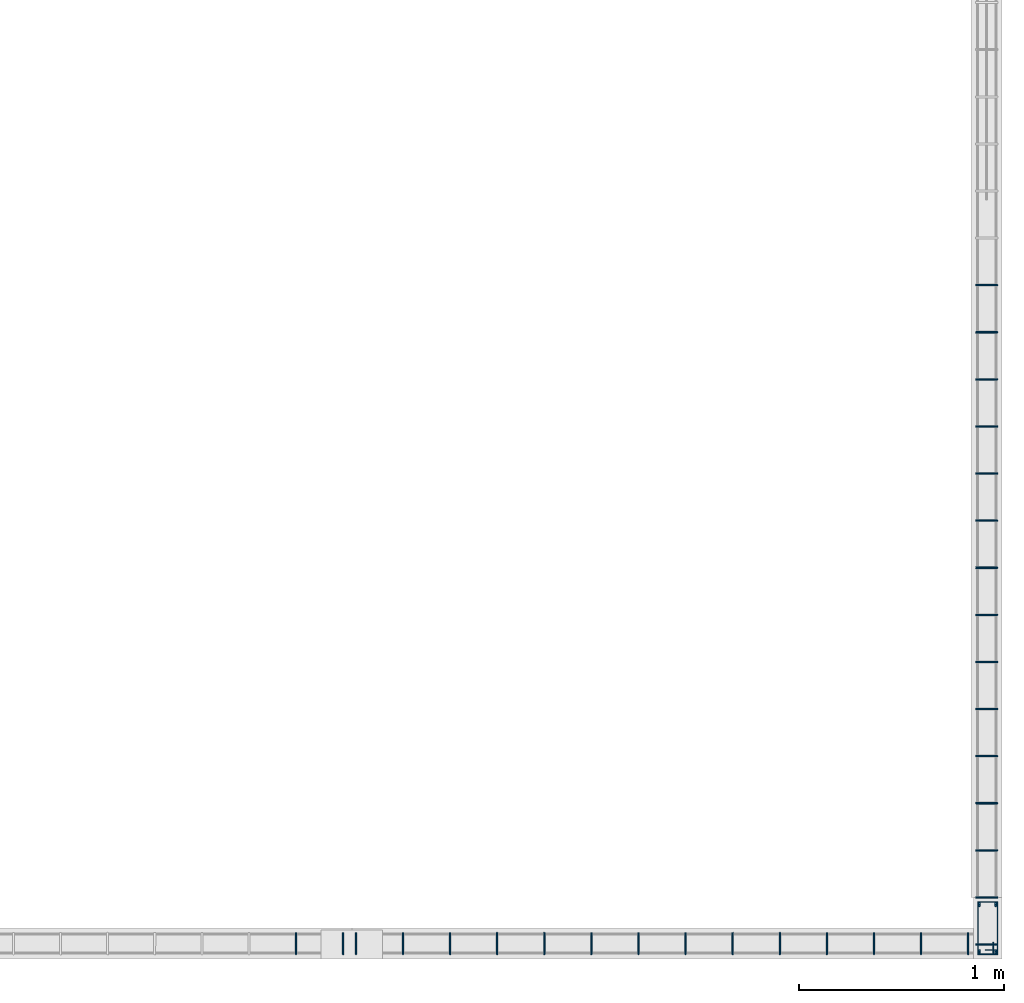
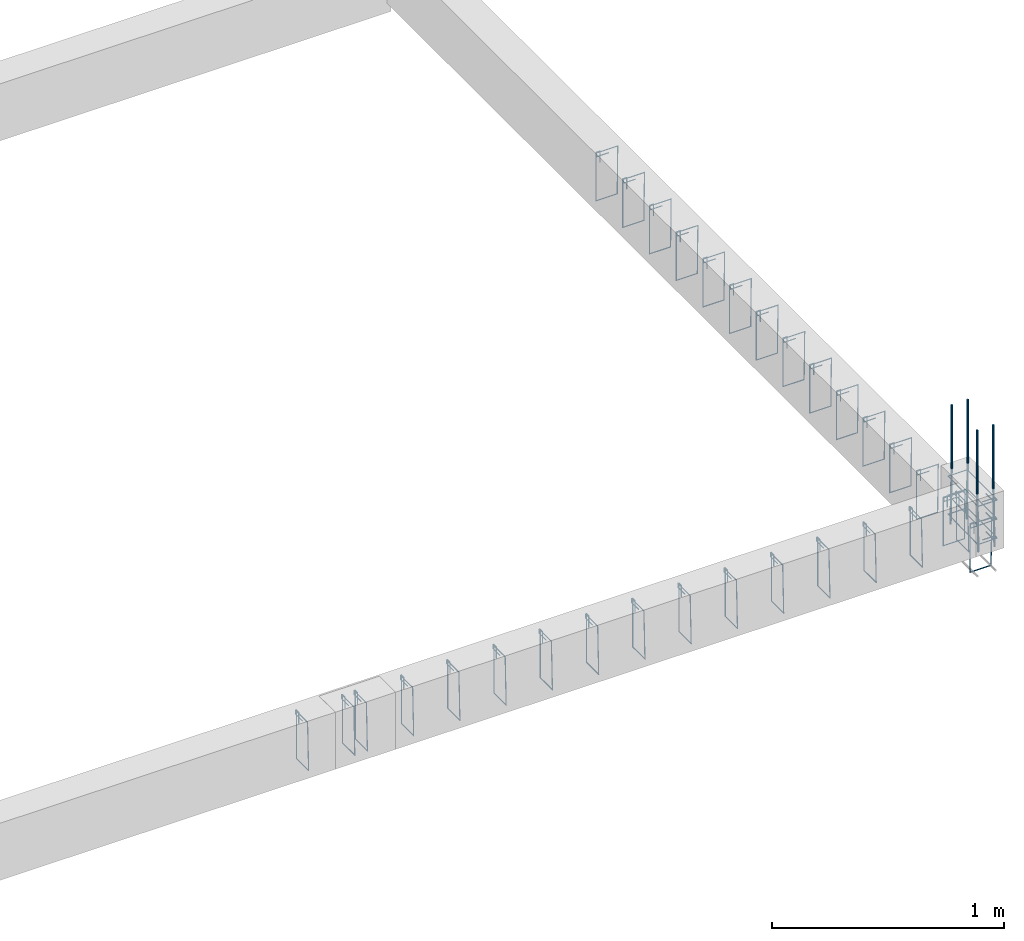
# One storey, part 90 of 150: 38 reinforcing bars.
"""IFC4 building model written with IfcOpenShell, lengths in centimetres."""

from ifc_helpers import new_model, entity, si_unit, derived_unit, frame, origin_with_axes, place, context, project, spatial, source, transform, mapped, element, save


model = new_model("IFC4")

# Units and contexts
model_context = context("Model", 3, precision=1e-05, world=origin_with_axes(), identifier="Body")
ifc_project = project(units=[si_unit("LENGTHUNIT", "METRE", prefix="CENTI"), si_unit("VOLUMEUNIT", "CUBIC_METRE"), si_unit("AREAUNIT", "SQUARE_METRE"), si_unit("POWERUNIT", "WATT"), si_unit("LUMINOUSFLUXUNIT", "LUMEN"), si_unit("ELECTRICCURRENTUNIT", "AMPERE"), si_unit("PRESSUREUNIT", "PASCAL", prefix="KILO"), si_unit("MASSUNIT", "GRAM", prefix="KILO"), si_unit("PLANEANGLEUNIT", "RADIAN"), derived_unit("VOLUMETRICFLOWRATEUNIT", [(si_unit("LENGTHUNIT", "METRE"), 3), (si_unit("TIMEUNIT", "SECOND"), -1)])], contexts=[model_context])

# Site, building, storey
site_placement = place(None, frame((-4000.0, 0.0, 0.0), z_axis=(0.0, 0.0, 1.0), x_axis=(1.0, 0.0, 0.0)))
site = spatial("IfcSite", under=ifc_project, at=site_placement, Name="PADRÃO")
building_placement = place(site_placement, frame((0.0, 0.0, -14.0)))
building = spatial("IfcBuilding", under=site, at=building_placement, Name="CRECHE PRÉ-ESCOLA TIPO 2")
placement = place(building_placement, origin_with_axes())
storey_placement = place(placement, frame((0.0, 0.0, 30.0), z_axis=(0.0, 0.0, 1.0), x_axis=(1.0, 0.0, 0.0)))
storey = spatial("IfcBuildingStorey", under=building, at=storey_placement, Name="VIGA BALDRAME", CompositionType="ELEMENT", Elevation=16.0)

# Reinforcing bars
shared_shape_1 = source(origin_with_axes(), model_context, "Body", "AdvancedSweptSolid", [
    entity("IfcSweptDiskSolid", entity("IfcCompositeCurve", [entity("IfcCompositeCurveSegment", "CONTINUOUS", True, entity("IfcPolyline", [entity("IfcCartesianPoint", [4.25, 21.75, 0.0]), entity("IfcCartesianPoint", [4.25, 27.75, 0.0])])), entity("IfcCompositeCurveSegment", "CONTINUOUS", True, entity("IfcPolyline", [entity("IfcCartesianPoint", [4.25, 27.75, 0.0]), entity("IfcCartesianPoint", [2.25, 27.75, 0.0])])), entity("IfcCompositeCurveSegment", "CONTINUOUS", True, entity("IfcPolyline", [entity("IfcCartesianPoint", [2.25, 27.75, 0.0]), entity("IfcCartesianPoint", [2.25, 2.25, 0.0])])), entity("IfcCompositeCurveSegment", "CONTINUOUS", True, entity("IfcPolyline", [entity("IfcCartesianPoint", [2.25, 2.25, 0.0]), entity("IfcCartesianPoint", [11.75, 2.25, 0.0])])), entity("IfcCompositeCurveSegment", "CONTINUOUS", True, entity("IfcPolyline", [entity("IfcCartesianPoint", [11.75, 2.25, 0.0]), entity("IfcCartesianPoint", [11.75, 27.75, -0.5])])), entity("IfcCompositeCurveSegment", "CONTINUOUS", True, entity("IfcPolyline", [entity("IfcCartesianPoint", [11.75, 27.75, -0.5]), entity("IfcCartesianPoint", [2.25, 27.75, -0.5])])), entity("IfcCompositeCurveSegment", "CONTINUOUS", True, entity("IfcPolyline", [entity("IfcCartesianPoint", [2.25, 27.75, -0.5]), entity("IfcCartesianPoint", [2.25, 25.75, -0.5])])), entity("IfcCompositeCurveSegment", "CONTINUOUS", True, entity("IfcPolyline", [entity("IfcCartesianPoint", [2.25, 25.75, -0.5]), entity("IfcCartesianPoint", [8.25, 25.75, -0.5])]))], False), 0.25),
])
for number, where, z_axis, x_axis, name in (
    (1, (3999.0, 32.0, -5.0), (0.0, 0.0, 1.0), (-1.0, 0.0, 0.0), "P168 - Estribo"),
    (2, (3999.0, 32.0, -15.0), (0.0, 0.0, 1.0), (-1.0, 0.0, 0.0), "P168 - Estribo"),
    (3, (3999.0, 32.0, -25.0), (0.0, 0.0, 1.0), (-1.0, 0.0, 0.0), "P168 - Estribo"),
):
    element("IfcReinforcingBar", number, at=place(storey_placement, frame(where, z_axis=z_axis, x_axis=x_axis)), inside=storey, Name=name, BarLength=0.0, CrossSectionArea=1.9634954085e-05, NominalDiameter=0.5, PredefinedType="MAIN", context=model_context, shape_type="MappedRepresentation", body=[
        mapped(shared_shape_1, transform((0.0, 0.0, 0.0), scale=1.0)),
    ])
shared_shape_2 = source(origin_with_axes(), model_context, "Body", "AdvancedSweptSolid", [
    entity("IfcSweptDiskSolid", entity("IfcCompositeCurve", [entity("IfcCompositeCurveSegment", "CONTINUOUS", True, entity("IfcPolyline", [entity("IfcCartesianPoint", [2.0, -6.0, 0.0]), entity("IfcCartesianPoint", [2.0, 0.0, 0.0])])), entity("IfcCompositeCurveSegment", "CONTINUOUS", True, entity("IfcPolyline", [entity("IfcCartesianPoint", [2.0, 0.0, 0.0]), entity("IfcCartesianPoint", [0.0, 0.0, 0.0])])), entity("IfcCompositeCurveSegment", "CONTINUOUS", True, entity("IfcPolyline", [entity("IfcCartesianPoint", [0.0, 0.0, 0.0]), entity("IfcCartesianPoint", [0.0, -25.5, 0.0])])), entity("IfcCompositeCurveSegment", "CONTINUOUS", True, entity("IfcPolyline", [entity("IfcCartesianPoint", [0.0, -25.5, 0.0]), entity("IfcCartesianPoint", [10.5, -25.5, 0.0])])), entity("IfcCompositeCurveSegment", "CONTINUOUS", True, entity("IfcPolyline", [entity("IfcCartesianPoint", [10.5, -25.5, 0.0]), entity("IfcCartesianPoint", [10.5, 0.0, 0.5])])), entity("IfcCompositeCurveSegment", "CONTINUOUS", True, entity("IfcPolyline", [entity("IfcCartesianPoint", [10.5, 0.0, 0.5]), entity("IfcCartesianPoint", [0.0, 0.0, 0.5])])), entity("IfcCompositeCurveSegment", "CONTINUOUS", True, entity("IfcPolyline", [entity("IfcCartesianPoint", [0.0, 0.0, 0.5]), entity("IfcCartesianPoint", [0.0, -2.0, 0.5])])), entity("IfcCompositeCurveSegment", "CONTINUOUS", True, entity("IfcPolyline", [entity("IfcCartesianPoint", [0.0, -2.0, 0.5]), entity("IfcCartesianPoint", [6.0, -2.0, 0.5])]))], False), 0.25),
])
for number, where, z_axis, x_axis, name in (
    (4, (3654.5, 14.75, -2.25), (-1.0, 0.0, 0.0), (0.0, -1.0, 0.0), "V158 - Estribo"),
    (5, (3677.5, 14.75, -2.25), (-1.0, 0.0, 0.0), (0.0, -1.0, 0.0), "V158 - Estribo"),
):
    element("IfcReinforcingBar", number, at=place(storey_placement, frame(where, z_axis=z_axis, x_axis=x_axis)), inside=storey, Name=name, BarLength=0.0, CrossSectionArea=1.9634954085e-05, NominalDiameter=0.5, PredefinedType="MAIN", context=model_context, shape_type="MappedRepresentation", body=[
        mapped(shared_shape_2, transform((0.0, 0.0, 0.0), scale=1.0)),
    ])
shared_shape_3 = source(origin_with_axes(), model_context, "Body", "AdvancedSweptSolid", [
    entity("IfcSweptDiskSolid", entity("IfcCompositeCurve", [entity("IfcCompositeCurveSegment", "CONTINUOUS", True, entity("IfcPolyline", [entity("IfcCartesianPoint", [2.0, -6.0, 0.0]), entity("IfcCartesianPoint", [2.0, 0.0, 0.0])])), entity("IfcCompositeCurveSegment", "CONTINUOUS", True, entity("IfcPolyline", [entity("IfcCartesianPoint", [2.0, 0.0, 0.0]), entity("IfcCartesianPoint", [0.0, 0.0, 0.0])])), entity("IfcCompositeCurveSegment", "CONTINUOUS", True, entity("IfcPolyline", [entity("IfcCartesianPoint", [0.0, 0.0, 0.0]), entity("IfcCartesianPoint", [0.0, -25.5, 0.0])])), entity("IfcCompositeCurveSegment", "CONTINUOUS", True, entity("IfcPolyline", [entity("IfcCartesianPoint", [0.0, -25.5, 0.0]), entity("IfcCartesianPoint", [10.5, -25.5, 0.0])])), entity("IfcCompositeCurveSegment", "CONTINUOUS", True, entity("IfcPolyline", [entity("IfcCartesianPoint", [10.5, -25.5, 0.0]), entity("IfcCartesianPoint", [10.5, 0.0, 0.5])])), entity("IfcCompositeCurveSegment", "CONTINUOUS", True, entity("IfcPolyline", [entity("IfcCartesianPoint", [10.5, 0.0, 0.5]), entity("IfcCartesianPoint", [0.0, 0.0, 0.5])])), entity("IfcCompositeCurveSegment", "CONTINUOUS", True, entity("IfcPolyline", [entity("IfcCartesianPoint", [0.0, 0.0, 0.5]), entity("IfcCartesianPoint", [0.0, -2.0, 0.5])])), entity("IfcCompositeCurveSegment", "CONTINUOUS", True, entity("IfcPolyline", [entity("IfcCartesianPoint", [0.0, -2.0, 0.5]), entity("IfcCartesianPoint", [6.0, -2.0, 0.5])]))], False), 0.25),
])
for number, where, z_axis, x_axis, name in (
    (6, (3683.75, 14.75, -2.25), (-1.0, 0.0, 0.0), (0.0, -1.0, 0.0), "V158 - Estribo"),
    (7, (3706.75, 14.75, -2.25), (-1.0, 0.0, 0.0), (0.0, -1.0, 0.0), "V158 - Estribo"),
    (8, (3729.75, 14.75, -2.25), (-1.0, 0.0, 0.0), (0.0, -1.0, 0.0), "V158 - Estribo"),
    (9, (3752.75, 14.75, -2.25), (-1.0, 0.0, 0.0), (0.0, -1.0, 0.0), "V158 - Estribo"),
    (10, (3775.75, 14.75, -2.25), (-1.0, 0.0, 0.0), (0.0, -1.0, 0.0), "V158 - Estribo"),
    (11, (3798.75, 14.75, -2.25), (-1.0, 0.0, 0.0), (0.0, -1.0, 0.0), "V158 - Estribo"),
    (12, (3821.75, 14.75, -2.25), (-1.0, 0.0, 0.0), (0.0, -1.0, 0.0), "V158 - Estribo"),
    (13, (3844.75, 14.75, -2.25), (-1.0, 0.0, 0.0), (0.0, -1.0, 0.0), "V158 - Estribo"),
    (14, (3867.75, 14.75, -2.25), (-1.0, 0.0, 0.0), (0.0, -1.0, 0.0), "V158 - Estribo"),
    (15, (3890.75, 14.75, -2.25), (-1.0, 0.0, 0.0), (0.0, -1.0, 0.0), "V158 - Estribo"),
    (16, (3913.75, 14.75, -2.25), (-1.0, 0.0, 0.0), (0.0, -1.0, 0.0), "V158 - Estribo"),
    (17, (3936.75, 14.75, -2.25), (-1.0, 0.0, 0.0), (0.0, -1.0, 0.0), "V158 - Estribo"),
    (18, (3959.75, 14.75, -2.25), (-1.0, 0.0, 0.0), (0.0, -1.0, 0.0), "V158 - Estribo"),
    (19, (3982.75, 14.75, -2.25), (-1.0, 0.0, 0.0), (0.0, -1.0, 0.0), "V158 - Estribo"),
):
    element("IfcReinforcingBar", number, at=place(storey_placement, frame(where, z_axis=z_axis, x_axis=x_axis)), inside=storey, Name=name, BarLength=0.0, CrossSectionArea=1.9634954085e-05, NominalDiameter=0.5, PredefinedType="MAIN", context=model_context, shape_type="MappedRepresentation", body=[
        mapped(shared_shape_3, transform((0.0, 0.0, 0.0), scale=1.0)),
    ])
shared_shape_4 = source(origin_with_axes(), model_context, "Body", "AdvancedSweptSolid", [
    entity("IfcSweptDiskSolid", entity("IfcCompositeCurve", [entity("IfcCompositeCurveSegment", "CONTINUOUS", True, entity("IfcPolyline", [entity("IfcCartesianPoint", [2.0, -6.0, 0.0]), entity("IfcCartesianPoint", [2.0, 0.0, 0.0])])), entity("IfcCompositeCurveSegment", "CONTINUOUS", True, entity("IfcPolyline", [entity("IfcCartesianPoint", [2.0, 0.0, 0.0]), entity("IfcCartesianPoint", [0.0, 0.0, 0.0])])), entity("IfcCompositeCurveSegment", "CONTINUOUS", True, entity("IfcPolyline", [entity("IfcCartesianPoint", [0.0, 0.0, 0.0]), entity("IfcCartesianPoint", [0.0, -25.5, 0.0])])), entity("IfcCompositeCurveSegment", "CONTINUOUS", True, entity("IfcPolyline", [entity("IfcCartesianPoint", [0.0, -25.5, 0.0]), entity("IfcCartesianPoint", [10.5, -25.5, 0.0])])), entity("IfcCompositeCurveSegment", "CONTINUOUS", True, entity("IfcPolyline", [entity("IfcCartesianPoint", [10.5, -25.5, 0.0]), entity("IfcCartesianPoint", [10.5, 0.0, 0.5])])), entity("IfcCompositeCurveSegment", "CONTINUOUS", True, entity("IfcPolyline", [entity("IfcCartesianPoint", [10.5, 0.0, 0.5]), entity("IfcCartesianPoint", [0.0, 0.0, 0.5])])), entity("IfcCompositeCurveSegment", "CONTINUOUS", True, entity("IfcPolyline", [entity("IfcCartesianPoint", [0.0, 0.0, 0.5]), entity("IfcCartesianPoint", [0.0, -2.0, 0.5])])), entity("IfcCompositeCurveSegment", "CONTINUOUS", True, entity("IfcPolyline", [entity("IfcCartesianPoint", [0.0, -2.0, 0.5]), entity("IfcCartesianPoint", [6.0, -2.0, 0.5])]))], False), 0.25),
])
for number, where, z_axis, x_axis, name in (
    (20, (3986.25, 9.255, -17.25), (0.0, -1.0, 0.0), (1.0, 0.0, 0.0), "V230 - Estribo"),
    (21, (3986.25, 32.255, -17.25), (0.0, -1.0, 0.0), (1.0, 0.0, 0.0), "V230 - Estribo"),
    (22, (3986.25, 55.255, -17.25), (0.0, -1.0, 0.0), (1.0, 0.0, 0.0), "V230 - Estribo"),
    (23, (3986.25, 78.255, -17.25), (0.0, -1.0, 0.0), (1.0, 0.0, 0.0), "V230 - Estribo"),
    (24, (3986.25, 101.255, -17.25), (0.0, -1.0, 0.0), (1.0, 0.0, 0.0), "V230 - Estribo"),
    (25, (3986.25, 124.255, -17.25), (0.0, -1.0, 0.0), (1.0, 0.0, 0.0), "V230 - Estribo"),
    (26, (3986.25, 147.255, -17.25), (0.0, -1.0, 0.0), (1.0, 0.0, 0.0), "V230 - Estribo"),
    (27, (3986.25, 170.255, -17.25), (0.0, -1.0, 0.0), (1.0, 0.0, 0.0), "V230 - Estribo"),
    (28, (3986.25, 193.255, -17.25), (0.0, -1.0, 0.0), (1.0, 0.0, 0.0), "V230 - Estribo"),
    (29, (3986.25, 216.255, -17.25), (0.0, -1.0, 0.0), (1.0, 0.0, 0.0), "V230 - Estribo"),
    (30, (3986.25, 239.255, -17.25), (0.0, -1.0, 0.0), (1.0, 0.0, 0.0), "V230 - Estribo"),
    (31, (3986.25, 262.255, -17.25), (0.0, -1.0, 0.0), (1.0, 0.0, 0.0), "V230 - Estribo"),
    (32, (3986.25, 285.255, -17.25), (0.0, -1.0, 0.0), (1.0, 0.0, 0.0), "V230 - Estribo"),
    (33, (3986.25, 308.255, -17.25), (0.0, -1.0, 0.0), (1.0, 0.0, 0.0), "V230 - Estribo"),
    (34, (3986.25, 331.255, -17.25), (0.0, -1.0, 0.0), (1.0, 0.0, 0.0), "V230 - Estribo"),
):
    element("IfcReinforcingBar", number, at=place(storey_placement, frame(where, z_axis=z_axis, x_axis=x_axis)), inside=storey, Name=name, BarLength=0.0, CrossSectionArea=1.9634954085e-05, NominalDiameter=0.5, PredefinedType="MAIN", context=model_context, shape_type="MappedRepresentation", body=[
        mapped(shared_shape_4, transform((0.0, 0.0, 0.0), scale=1.0)),
    ])
reinforcing_bar_1_placement = place(storey_placement, frame((3988.0, 28.4998612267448, 33.3573001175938), z_axis=(0.0, 0.0, 1.0), x_axis=(1.0, 0.0, 0.0)))
element("IfcReinforcingBar", 35, at=reinforcing_bar_1_placement, inside=storey, Name="P168 - Longitudinal", BarLength=0.0, CrossSectionArea=7.853981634e-05, NominalDiameter=1.0, PredefinedType="MAIN", context=model_context, shape_type="AdvancedSweptSolid", body=[
    entity("IfcSweptDiskSolid", entity("IfcCompositeCurve", [entity("IfcCompositeCurveSegment", "CONTINUOUS", True, entity("IfcPolyline", [entity("IfcCartesianPoint", [0.0, 0.500138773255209, -63.3573001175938]), entity("IfcCartesianPoint", [0.0, -0.499861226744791, -33.3573001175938])])), entity("IfcCompositeCurveSegment", "CONTINUOUS", True, entity("IfcPolyline", [entity("IfcCartesianPoint", [0.0, -0.499861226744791, -33.3573001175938]), entity("IfcCartesianPoint", [0.0, -0.499861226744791, 0.0])]))], False), 0.5),
])
for number, where, z_axis, x_axis, name in (
    (36, (3988.0, 5.50013877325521, 33.3573001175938), (0.0, 0.0, 1.0), (1.0, 0.0, 0.0), "P168 - Longitudinal"),
    (37, (3996.0, 5.50013877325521, 33.3573001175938), (0.0, 0.0, 1.0), (1.0, 0.0, 0.0), "P168 - Longitudinal"),
):
    element("IfcReinforcingBar", number, at=place(storey_placement, frame(where, z_axis=z_axis, x_axis=x_axis)), inside=storey, Name=name, BarLength=0.0, CrossSectionArea=7.853981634e-05, NominalDiameter=1.0, PredefinedType="MAIN", context=model_context, shape_type="AdvancedSweptSolid", body=[
        entity("IfcSweptDiskSolid", entity("IfcCompositeCurve", [entity("IfcCompositeCurveSegment", "CONTINUOUS", True, entity("IfcPolyline", [entity("IfcCartesianPoint", [0.0, -0.500138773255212, -63.3573001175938]), entity("IfcCartesianPoint", [0.0, 0.499861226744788, -33.3573001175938])])), entity("IfcCompositeCurveSegment", "CONTINUOUS", True, entity("IfcPolyline", [entity("IfcCartesianPoint", [0.0, 0.499861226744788, -33.3573001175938]), entity("IfcCartesianPoint", [0.0, 0.499861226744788, 0.0])]))], False), 0.5),
    ])
reinforcing_bar_2_placement = place(storey_placement, frame((3996.0, 28.4998612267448, 33.3573001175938), z_axis=(0.0, 0.0, 1.0), x_axis=(1.0, 0.0, 0.0)))
element("IfcReinforcingBar", 38, at=reinforcing_bar_2_placement, inside=storey, Name="P168 - Longitudinal", BarLength=0.0, CrossSectionArea=7.853981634e-05, NominalDiameter=1.0, PredefinedType="MAIN", context=model_context, shape_type="AdvancedSweptSolid", body=[
    entity("IfcSweptDiskSolid", entity("IfcCompositeCurve", [entity("IfcCompositeCurveSegment", "CONTINUOUS", True, entity("IfcPolyline", [entity("IfcCartesianPoint", [0.0, 0.500138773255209, -63.3573001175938]), entity("IfcCartesianPoint", [0.0, -0.499861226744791, -33.3573001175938])])), entity("IfcCompositeCurveSegment", "CONTINUOUS", True, entity("IfcPolyline", [entity("IfcCartesianPoint", [0.0, -0.499861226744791, -33.3573001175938]), entity("IfcCartesianPoint", [0.0, -0.499861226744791, 0.0])]))], False), 0.5),
])

save(model, "model.ifc")
